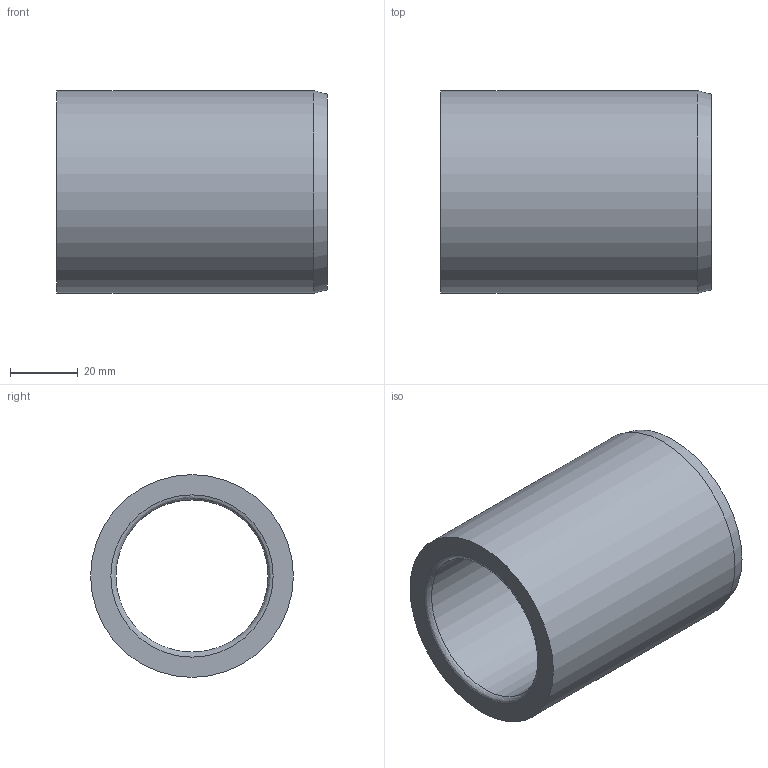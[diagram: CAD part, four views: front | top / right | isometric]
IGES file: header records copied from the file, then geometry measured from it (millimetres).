
Global section: file name: BG04.456080.ipt; native system: Autodesk Inventor 2021; preprocessor: unknown; author: SM; date: 20211217.163558; units: millimetre
Bounding box: 80 x 60 x 60 mm (x, y, z)
Volume: 98422.4 mm3; surface area: 28497.6 mm2
Topology: 1 solids, 1 shells, 7 faces, 18 edges, 13 vertices
Faces by surface type: revolution 3, plane 2, cylinder 1, cone 1
Full cylindrical faces by diameter (mm): 60 x1
